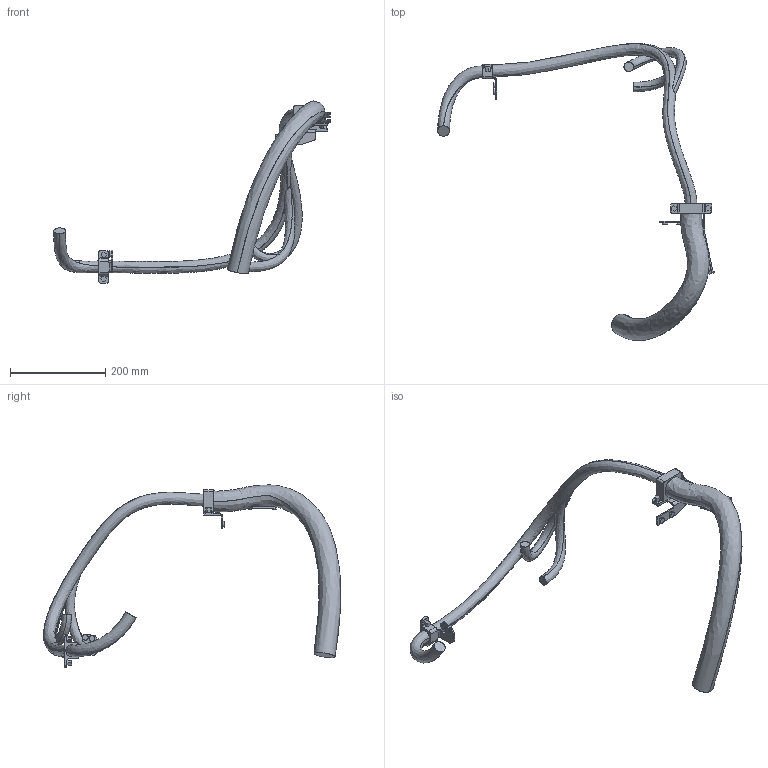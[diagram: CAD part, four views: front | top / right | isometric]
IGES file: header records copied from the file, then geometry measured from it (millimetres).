
Start section: SolidWorks IGES file using analytic representation for surfaces
Global section: file name: C:\Users\SEALDUN\OneDrive - ABB\Documents\R&D Robotics\Work Items\WI 632927 light weight hole removal\IGES\IRB5720-MH3_180kg-260_OC_03_IGES_J\IRB5720-MH3_180kg-260_OmniCore_rev00_LINK03m_CABLE.igs; native system: SolidWorks 2024; preprocessor: SolidWorks 2024; author: SEALDUN; date: 250708.132511; units: millimetre
Bounding box: 581.65 x 624.57 x 382.77 mm (x, y, z)
Surface area: 227458.6 mm2 (no closed solid volume)
Topology: 0 solids, 0 shells, 249 faces, 3103 edges, 3103 vertices
Faces by surface type: bspline 165, revolution 84
